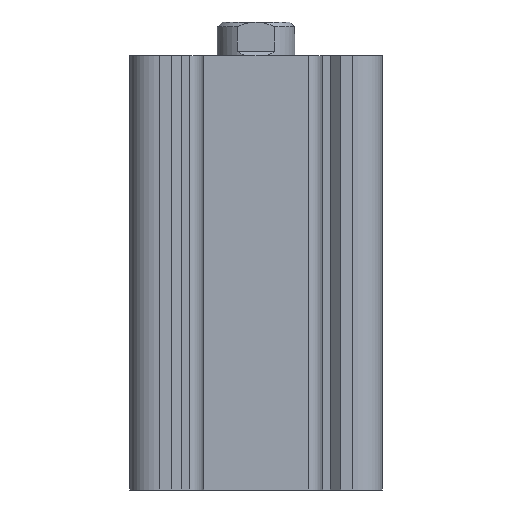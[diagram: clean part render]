
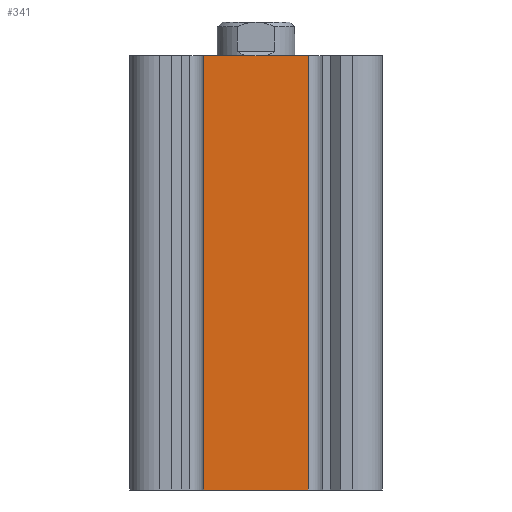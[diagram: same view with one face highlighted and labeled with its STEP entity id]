
A CAD part, left-side view. The second image highlights one B-rep face of the part: STEP entity #341.
In plain terms, the highlighted planar face has unit normal (-1, 0, 0).
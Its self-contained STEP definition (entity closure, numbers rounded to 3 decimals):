
#341 = ADVANCED_FACE( '', ( #753 ), #754, .T. );
#753 = FACE_OUTER_BOUND( '', #1253, .T. );
#754 = PLANE( '', #1254 );
#1253 = EDGE_LOOP( '', ( #1986, #1987, #1988, #1989 ) );
#1254 = AXIS2_PLACEMENT_3D( '', #1990, #1991, #1992 );
#1986 = ORIENTED_EDGE( '', *, *, #2825, .F. );
#1987 = ORIENTED_EDGE( '', *, *, #2826, .F. );
#1988 = ORIENTED_EDGE( '', *, *, #2827, .T. );
#1989 = ORIENTED_EDGE( '', *, *, #2828, .T. );
#1990 = CARTESIAN_POINT( '', ( -23.8, 10.8, -89.5 ) );
#1991 = DIRECTION( '', ( -1., 0., 0. ) );
#1992 = DIRECTION( '', ( 0., 0., 1. ) );
#2825 = EDGE_CURVE( '', #3378, #3379, #3380, .T. );
#2826 = EDGE_CURVE( '', #3381, #3378, #3382, .T. );
#2827 = EDGE_CURVE( '', #3381, #3383, #3384, .T. );
#2828 = EDGE_CURVE( '', #3383, #3379, #3385, .T. );
#3378 = VERTEX_POINT( '', #4115 );
#3379 = VERTEX_POINT( '', #4116 );
#3380 = LINE( '', #4117, #4118 );
#3381 = VERTEX_POINT( '', #4119 );
#3382 = LINE( '', #4120, #4121 );
#3383 = VERTEX_POINT( '', #4122 );
#3384 = LINE( '', #4123, #4124 );
#3385 = LINE( '', #4125, #4126 );
#4115 = CARTESIAN_POINT( '', ( -23.8, 10.8, 0. ) );
#4116 = CARTESIAN_POINT( '', ( -23.8, -10.8, 0. ) );
#4117 = CARTESIAN_POINT( '', ( -23.8, 10.8, 0. ) );
#4118 = VECTOR( '', #4683, 1000. );
#4119 = CARTESIAN_POINT( '', ( -23.8, 10.8, -89.5 ) );
#4120 = CARTESIAN_POINT( '', ( -23.8, 10.8, -89.5 ) );
#4121 = VECTOR( '', #4684, 1000. );
#4122 = CARTESIAN_POINT( '', ( -23.8, -10.8, -89.5 ) );
#4123 = CARTESIAN_POINT( '', ( -23.8, 10.8, -89.5 ) );
#4124 = VECTOR( '', #4685, 1000. );
#4125 = CARTESIAN_POINT( '', ( -23.8, -10.8, -89.5 ) );
#4126 = VECTOR( '', #4686, 1000. );
#4683 = DIRECTION( '', ( 0., -1., 0. ) );
#4684 = DIRECTION( '', ( 0., 0., 1. ) );
#4685 = DIRECTION( '', ( 0., -1., 0. ) );
#4686 = DIRECTION( '', ( 0., 0., 1. ) );
